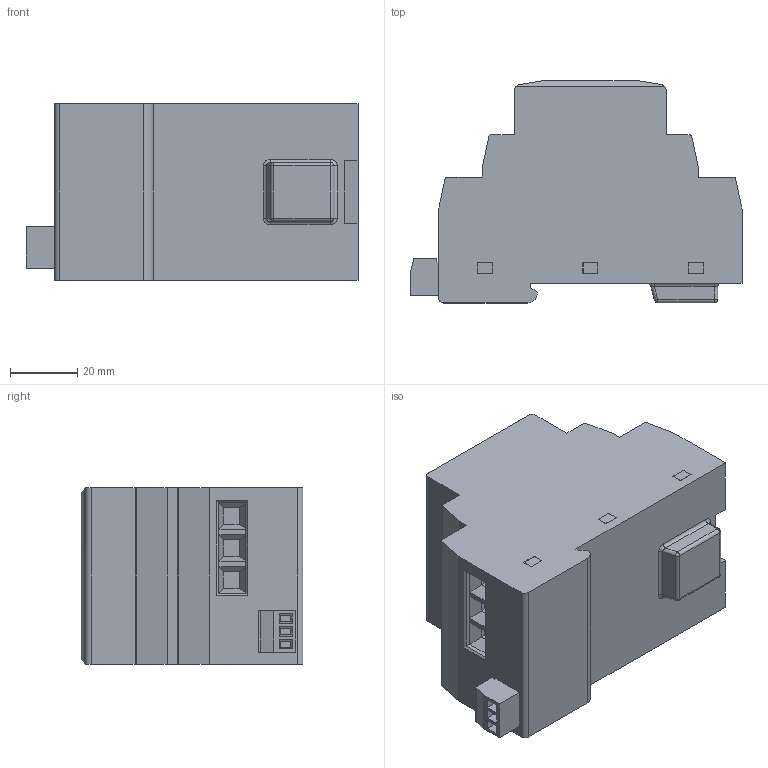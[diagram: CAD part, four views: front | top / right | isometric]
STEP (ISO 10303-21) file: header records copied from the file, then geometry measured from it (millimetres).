
FILE_DESCRIPTION(/* description */ (''),/* implementation_level */ '2;1');
FILE_NAME(/* name */ 'K:\PROJEKTY ROZPRACOVANÉ\MODELY DO KATALOGU\HSAF\3D - STEP\HSAF 3M S.stp',/* time_stamp */ '2020-03-25T09:06:36+01:00',/* author */ ('M Koliska'),/* organization */ (''),/* preprocessor_version */ 'ST-DEVELOPER v18',/* originating_system */ 'Autodesk Inventor 2020',/* authorisation */ '');
FILE_SCHEMA (('AUTOMOTIVE_DESIGN { 1 0 10303 214 3 1 1 }'));
Length unit declared in the file: millimetre
Products named in the file (8): HSAF10, 16 S; HSAF S; DG636 - 9.52 2P; DG636 - 9.52 3P; KONEKTOR DEGSON 15EDGK 3.81; KONEKTOR SAMEC; ISO 2009 - M1,6 x 2,5; KONEKTOR DEGSON 15EDGRC 3.81 (OBRÁCENÉ VÝV
ODY)
Assembly tree (9 placements, depth 3):
  HSAF10, 16 S
    HSAF S
    DG636 - 9.52 2P
    DG636 - 9.52 3P
    KONEKTOR DEGSON 15EDGK 3.81
      KONEKTOR SAMEC
      ISO 2009 - M1,6 x 2,5  x3
    KONEKTOR DEGSON 15EDGRC 3.81 (OBRÁCENÉ VÝV
ODY)
Bounding box: 98.5 x 65.8 x 52.5 mm (x, y, z)
Volume: 238750 mm3; surface area: 35167.2 mm2
Topology: 8 solids, 8 shells, 563 faces, 1362 edges, 883 vertices
Faces by surface type: plane 448, cylinder 85, cone 16, torus 8, sphere 4, bspline 2
Full cylindrical faces by diameter (mm): 0.8 x5, 0.968 x3, 1 x6, 1.171 x3, 1.6 x3, 1.9 x3, 2 x3, 2.5 x3, 4.5 x5, 5 x5
Entity records: 15938 total; most frequent: CARTESIAN_POINT 2746, DIRECTION 2623, ORIENTED_EDGE 2592, EDGE_CURVE 1296, LINE 1067, VECTOR 1067, VERTEX_POINT 839, AXIS2_PLACEMENT_3D 778
